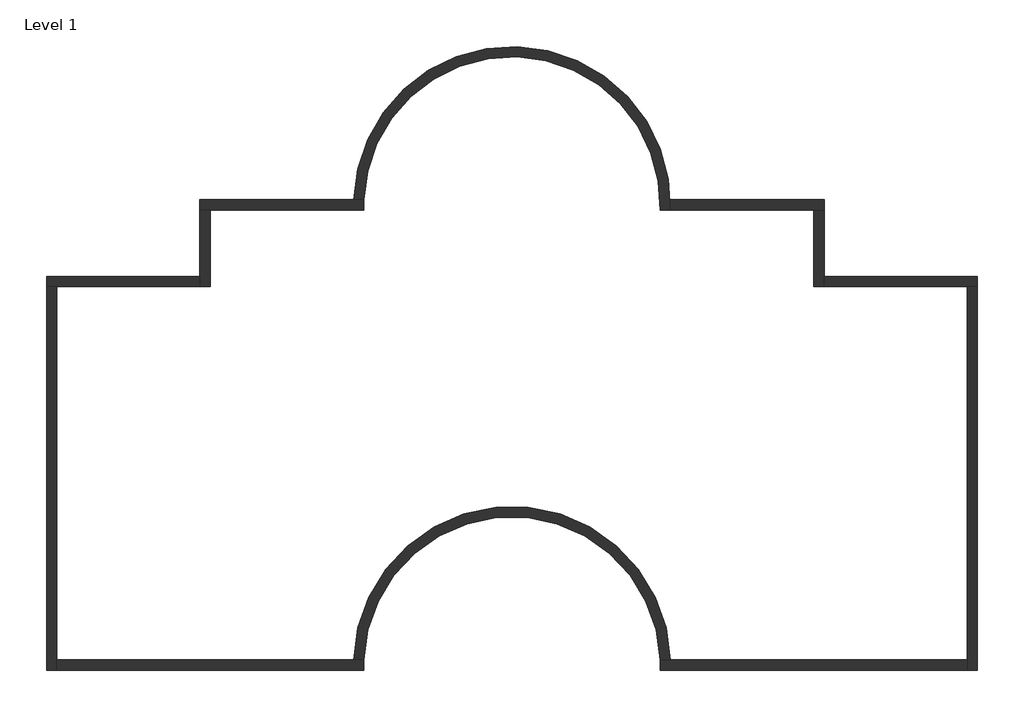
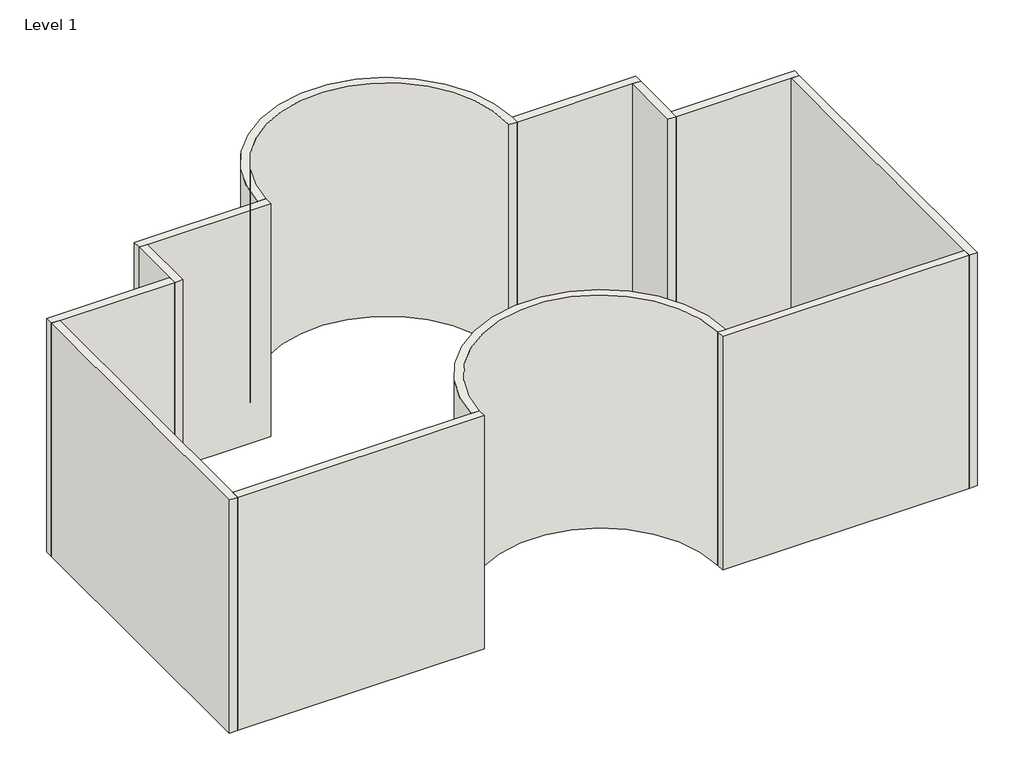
# One storey: 12 walls.
"""IFC4 building model written with IfcOpenShell, lengths in millimetres."""

from ifc_helpers import new_model, si_unit, point, frame, frame_2d, origin, origin_with_axes, place, context, project, spatial, polyline, circle_curve, trimmed, segment, composite_curve, outline, extrude, faceted_brep, element, save
from ifc_brep_helpers import plane_surface, cylinder_surface, revolved_surface, advanced_brep

model = new_model("IFC4")

# Units and contexts
model_context = context("Model", 3, world=origin())
ifc_project = project(units=[si_unit("LENGTHUNIT", "METRE", prefix="MILLI")], contexts=[model_context])

# Site, building, storey
site = spatial("IfcSite", under=ifc_project)
building = spatial("IfcBuilding", under=site)
storey = spatial("IfcBuildingStorey", under=building, Name="Level 1", Elevation=0.0)

# Walls
placement = place(None, origin())
element("IfcWall", 1, ObjectType="Generic - 8\"", at=placement, inside=storey, context=model_context, shape_type="AdvancedBrep", body=[
    advanced_brep(
    [(-911.0569066, 6435.3281437, 0.0), (-1114.3700155, 6435.3281437, 0.0), (-4164.0091517, 6435.3281437, 0.0), (-4164.0091517, 6435.3281437, 6096.0), (-1114.3700155, 6435.3281437, 6096.0), (-911.0569066, 6435.3281437, 6096.0), (-911.0569066, 6232.1281437, 0.0), (-911.0569066, 6232.1281437, 6096.0), (-3960.8091517, 6232.1281437, 6096.0), (-4164.0091517, 6232.1281437, 6096.0), (-4164.0091517, 6232.1281437, 0.0), (-3960.8091517, 6232.1281437, 0.0)],
    [
        (0, 1),
        (1, 2),
        (2, 3),
        (3, 4),
        (4, 5),
        (5, 0),
        (6, 7),
        (7, 8),
        (8, 9),
        (9, 10),
        (10, 11),
        (11, 6),
        (0, 6, circle_curve(frame((2033.5908483, 6333.7281437, 0.0), z_axis=(0.0, 0.0, 1.0), x_axis=(1.0, 0.0, 0.0)), 2946.4)),
        (10, 2),
        (3, 9),
        (7, 5, circle_curve(frame((2033.5908483, 6333.7281437, 6096.0), z_axis=(0.0, 0.0, -1.0), x_axis=(1.0, 0.0, 0.0)), 2946.4)),
    ],
    [
        plane_surface(frame((-1014.4091517, 6435.3281437, 0.0), z_axis=(0.0, 1.0, 0.0), x_axis=(-1.0, 0.0, 0.0))),
        plane_surface(frame((-1014.4091517, 6232.1281437, 0.0), z_axis=(0.0, -1.0, 0.0), x_axis=(1.0, 0.0, 0.0))),
        plane_surface(frame((-1014.4091517, 6435.3281437, 0.0), z_axis=(0.0, 0.0, -1.0), x_axis=(0.0, -1.0, 0.0))),
        plane_surface(frame((-4062.4091517, 6435.3281437, 6096.0), z_axis=(0.0, 0.0, 1.0), x_axis=(0.0, -1.0, 0.0))),
        plane_surface(frame((-4164.0091517, 6333.7281437, 0.0), z_axis=(-1.0, 0.0, 0.0), x_axis=(0.0, -1.0, 0.0))),
        revolved_surface(polyline([(4979.9908483, 6333.7281437, 0.0), (4979.9908483, 6333.7281437, 6096.0)]), (2033.5908483, 6333.7281437, 0.0), (0.0, 0.0, -1.0)),
    ],
    [
        (0, [[1, 2, 3, 4, 5, 6]]),
        (1, [[7, 8, 9, 10, 11, 12]]),
        (2, [[-2, -1, 13, -12, -11, 14]]),
        (3, [[-5, -4, 15, -9, -8, 16]]),
        (4, [[-3, -14, -10, -15]]),
        (5, [[-6, -16, -7, -13]]),
    ],
),
])
element("IfcWall", 2, ObjectType="Generic - 8\"", at=placement, inside=storey, context=model_context, shape_type="Brep", body=[
    faceted_brep([(-4164.0091517, 6232.1281437, 0.0), (-4164.0091517, 4911.3281437, 0.0), (-4164.0091517, 4708.1281437, 0.0), (-4164.0091517, 4708.1281437, 6096.0), (-4164.0091517, 4911.3281437, 6096.0), (-4164.0091517, 6232.1281437, 6096.0), (-3960.8091517, 6232.1281437, 0.0), (-3960.8091517, 6232.1281437, 6096.0), (-3960.8091517, 4708.1281437, 6096.0), (-3960.8091517, 4708.1281437, 0.0)], [[[0, 1, 2, 3, 4, 5]], [[6, 7, 8, 9]], [[2, 1, 0, 6, 9]], [[5, 4, 3, 8, 7]], [[3, 2, 9, 8]], [[0, 5, 7, 6]]]),
])
element("IfcWall", 3, ObjectType="Generic - 8\"", at=placement, inside=storey, context=model_context, shape_type="Brep", body=[
    faceted_brep([(-4164.0091517, 4911.3281437, 0.0), (-7212.0091517, 4911.3281437, 0.0), (-7212.0091517, 4911.3281437, 6096.0), (-4164.0091517, 4911.3281437, 6096.0), (-4164.0091517, 4708.1281437, 0.0), (-4164.0091517, 4708.1281437, 6096.0), (-7008.8091517, 4708.1281437, 6096.0), (-7212.0091517, 4708.1281437, 6096.0), (-7212.0091517, 4708.1281437, 0.0), (-7008.8091517, 4708.1281437, 0.0)], [[[0, 1, 2, 3]], [[4, 5, 6, 7, 8, 9]], [[1, 0, 4, 9, 8]], [[3, 2, 7, 6, 5]], [[2, 1, 8, 7]], [[0, 3, 5, 4]]]),
])
element("IfcWall", 4, ObjectType="Generic - 8\"", at=placement, inside=storey, context=model_context, shape_type="Brep", body=[
    faceted_brep([(-7212.0091517, 4708.1281437, 0.0), (-7212.0091517, -2911.8718563, 0.0), (-7212.0091517, -2911.8718563, 6096.0), (-7212.0091517, 4708.1281437, 6096.0), (-7008.8091517, 4708.1281437, 0.0), (-7008.8091517, 4708.1281437, 6096.0), (-7008.8091517, -2708.6718563, 6096.0), (-7008.8091517, -2911.8718563, 6096.0), (-7008.8091517, -2911.8718563, 0.0), (-7008.8091517, -2708.6718563, 0.0)], [[[0, 1, 2, 3]], [[4, 5, 6, 7, 8, 9]], [[1, 0, 4, 9, 8]], [[3, 2, 7, 6, 5]], [[2, 1, 8, 7]], [[0, 3, 5, 4]]]),
])
element("IfcWall", 5, ObjectType="Generic - 8\"", at=placement, inside=storey, context=model_context, shape_type="AdvancedBrep", body=[
    advanced_brep(
    [(-7008.8091517, -2911.8718563, 0.0), (-911.0569066, -2911.8718563, 0.0), (-911.0569066, -2911.8718563, 6096.0), (-7008.8091517, -2911.8718563, 6096.0), (-7008.8091517, -2708.6718563, 0.0), (-7008.8091517, -2708.6718563, 6096.0), (-1114.3700155, -2708.6718563, 6096.0), (-911.0569066, -2708.6718563, 6096.0), (-911.0569066, -2708.6718563, 0.0), (-1114.3700155, -2708.6718563, 0.0)],
    [
        (0, 1),
        (1, 2),
        (2, 3),
        (3, 0),
        (4, 5),
        (5, 6),
        (6, 7),
        (7, 8),
        (8, 9),
        (9, 4),
        (0, 4),
        (8, 1, circle_curve(frame((2033.5908483, -2810.2718563, 0.0), z_axis=(0.0, 0.0, 1.0), x_axis=(1.0, 0.0, 0.0)), 2946.4)),
        (2, 7, circle_curve(frame((2033.5908483, -2810.2718563, 6096.0), z_axis=(0.0, 0.0, -1.0), x_axis=(1.0, 0.0, 0.0)), 2946.4)),
        (5, 3),
    ],
    [
        plane_surface(frame((-7110.4091517, -2911.8718563, 0.0), z_axis=(0.0, -1.0, 0.0), x_axis=(1.0, 0.0, 0.0))),
        plane_surface(frame((-7110.4091517, -2708.6718563, 0.0), z_axis=(0.0, 1.0, 0.0), x_axis=(-1.0, 0.0, 0.0))),
        plane_surface(frame((-7110.4091517, -2911.8718563, 0.0), z_axis=(0.0, 0.0, -1.0), x_axis=(0.0, 1.0, 0.0))),
        plane_surface(frame((-1014.4091517, -2911.8718563, 6096.0), z_axis=(0.0, 0.0, 1.0), x_axis=(0.0, 1.0, 0.0))),
        revolved_surface(polyline([(4979.9908483, -2810.2718563, 0.0), (4979.9908483, -2810.2718563, 6096.0)]), (2033.5908483, -2810.2718563, 0.0), (0.0, 0.0, -1.0)),
        plane_surface(frame((-7008.8091517, 4809.7281437, 0.0), z_axis=(-1.0, 0.0, 0.0), x_axis=(0.0, 1.0, 0.0))),
    ],
    [
        (0, [[1, 2, 3, 4]]),
        (1, [[5, 6, 7, 8, 9, 10]]),
        (2, [[-1, 11, -10, -9, 12]]),
        (3, [[-3, 13, -7, -6, 14]]),
        (4, [[-2, -12, -8, -13]]),
        (5, [[-4, -14, -5, -11]]),
    ],
),
])
element("IfcWall", 6, ObjectType="Generic - 8\"", at=placement, inside=storey, context=model_context, shape_type="AdvancedBrep", body=[
    advanced_brep(
    [(5181.5517121, 6232.1281437, 6096.0), (5181.5517121, 6435.3281437, 6096.0), (-1114.3700155, 6435.3281437, 6096.0), (-911.0569066, 6435.3281437, 6096.0), (4978.2386031, 6232.1281437, 6096.0), (5181.5517121, 6232.1281437, 0.0), (4978.2386031, 6232.1281437, 0.0), (-911.0569066, 6435.3281437, 0.0), (-1114.3700155, 6435.3281437, 0.0), (5181.5517121, 6435.3281437, 0.0)],
    [
        (0, 1, circle_curve(frame((2033.5908483, 6333.7281437, 6096.0), z_axis=(0.0, 0.0, 1.0), x_axis=(1.0, 0.0, 0.0)), 3149.6)),
        (1, 2, circle_curve(frame((2033.5908483, 6333.7281437, 6096.0), z_axis=(0.0, 0.0, 1.0), x_axis=(1.0, 0.0, 0.0)), 3149.6)),
        (2, 3),
        (3, 4, circle_curve(frame((2033.5908483, 6333.7281437, 6096.0), z_axis=(0.0, 0.0, -1.0), x_axis=(1.0, 0.0, 0.0)), 2946.4)),
        (4, 0),
        (5, 6),
        (6, 7, circle_curve(frame((2033.5908483, 6333.7281437, 0.0), z_axis=(0.0, 0.0, 1.0), x_axis=(1.0, 0.0, 0.0)), 2946.4)),
        (7, 8),
        (8, 9, circle_curve(frame((2033.5908483, 6333.7281437, 0.0), z_axis=(0.0, 0.0, -1.0), x_axis=(1.0, 0.0, 0.0)), 3149.6)),
        (9, 5, circle_curve(frame((2033.5908483, 6333.7281437, 0.0), z_axis=(0.0, 0.0, -1.0), x_axis=(1.0, 0.0, 0.0)), 3149.6)),
        (0, 5),
        (8, 2),
        (3, 7),
        (6, 4),
    ],
    [
        plane_surface(frame((5183.1908483, 6333.7281437, 6096.0), z_axis=(0.0, 0.0, 1.0), x_axis=(0.0, 1.0, 0.0))),
        plane_surface(frame((5183.1908483, 6333.7281437, 0.0), z_axis=(0.0, 0.0, -1.0), x_axis=(0.0, -1.0, 0.0))),
        cylinder_surface(frame((2033.5908483, 6333.7281437, 0.0), z_axis=(0.0, 0.0, 1.0), x_axis=(1.0, 0.0, 0.0)), 3149.6),
        revolved_surface(polyline([(4979.9908483, 6333.7281437, 0.0), (4979.9908483, 6333.7281437, 6096.0)]), (2033.5908483, 6333.7281437, 0.0), (0.0, 0.0, -1.0)),
        plane_surface(frame((5081.5908483, 6232.1281437, 0.0), z_axis=(0.0, -1.0, 0.0), x_axis=(1.0, 0.0, 0.0))),
        plane_surface(frame((-1014.4091517, 6435.3281437, 0.0), z_axis=(0.0, -1.0, 0.0), x_axis=(-1.0, 0.0, 0.0))),
    ],
    [
        (0, [[1, 2, 3, 4, 5]]),
        (1, [[6, 7, 8, 9, 10]]),
        (2, [[-2, -1, 11, -10, -9, 12]]),
        (3, [[-4, 13, -7, 14]]),
        (4, [[-5, -14, -6, -11]]),
        (5, [[-3, -12, -8, -13]]),
    ],
),
])
element("IfcWall", 7, ObjectType="Generic - 8\"", at=placement, inside=storey, context=model_context, shape_type="AdvancedBrep", body=[
    advanced_brep(
    [(5181.5517121, 6232.1281437, 0.0), (8027.9908483, 6232.1281437, 0.0), (8231.1908483, 6232.1281437, 0.0), (8231.1908483, 6232.1281437, 6096.0), (8027.9908483, 6232.1281437, 6096.0), (5181.5517121, 6232.1281437, 6096.0), (5181.5517121, 6435.3281437, 0.0), (5181.5517121, 6435.3281437, 6096.0), (8231.1908483, 6435.3281437, 6096.0), (8231.1908483, 6435.3281437, 0.0)],
    [
        (0, 1),
        (1, 2),
        (2, 3),
        (3, 4),
        (4, 5),
        (5, 0),
        (6, 7),
        (7, 8),
        (8, 9),
        (9, 6),
        (0, 6, circle_curve(frame((2033.5908483, 6333.7281437, 0.0), z_axis=(0.0, 0.0, 1.0), x_axis=(1.0, 0.0, 0.0)), 3149.6)),
        (9, 2),
        (3, 8),
        (7, 5, circle_curve(frame((2033.5908483, 6333.7281437, 6096.0), z_axis=(0.0, 0.0, -1.0), x_axis=(1.0, 0.0, 0.0)), 3149.6)),
    ],
    [
        plane_surface(frame((5081.5908483, 6232.1281437, 0.0), z_axis=(0.0, -1.0, 0.0), x_axis=(1.0, 0.0, 0.0))),
        plane_surface(frame((5081.5908483, 6435.3281437, 0.0), z_axis=(0.0, 1.0, 0.0), x_axis=(-1.0, 0.0, 0.0))),
        plane_surface(frame((5081.5908483, 6232.1281437, 0.0), z_axis=(0.0, 0.0, -1.0), x_axis=(0.0, 1.0, 0.0))),
        plane_surface(frame((8129.5908483, 6232.1281437, 6096.0), z_axis=(0.0, 0.0, 1.0), x_axis=(0.0, 1.0, 0.0))),
        plane_surface(frame((8231.1908483, 6333.7281437, 0.0), z_axis=(1.0, 0.0, 0.0), x_axis=(0.0, 1.0, 0.0))),
        revolved_surface(polyline([(5183.1908483, 6333.7281437, 6096.0), (5183.1908483, 6333.7281437, 0.0)]), (2033.5908483, 6333.7281437, 0.0), (0.0, 0.0, 1.0)),
    ],
    [
        (0, [[1, 2, 3, 4, 5, 6]]),
        (1, [[7, 8, 9, 10]]),
        (2, [[-2, -1, 11, -10, 12]]),
        (3, [[-5, -4, 13, -8, 14]]),
        (4, [[-3, -12, -9, -13]]),
        (5, [[-6, -14, -7, -11]]),
    ],
),
])
element("IfcWall", 8, ObjectType="Generic - 8\"", at=placement, inside=storey, context=model_context, shape_type="Brep", body=[
    faceted_brep([(8027.9908483, 6232.1281437, 0.0), (8027.9908483, 4708.1281437, 0.0), (8027.9908483, 4708.1281437, 6096.0), (8027.9908483, 6232.1281437, 6096.0), (8231.1908483, 6232.1281437, 0.0), (8231.1908483, 6232.1281437, 6096.0), (8231.1908483, 4911.3281437, 6096.0), (8231.1908483, 4708.1281437, 6096.0), (8231.1908483, 4708.1281437, 0.0), (8231.1908483, 4911.3281437, 0.0)], [[[0, 1, 2, 3]], [[4, 5, 6, 7, 8, 9]], [[1, 0, 4, 9, 8]], [[3, 2, 7, 6, 5]], [[2, 1, 8, 7]], [[0, 3, 5, 4]]]),
])
element("IfcWall", 9, ObjectType="Generic - 8\"", at=placement, inside=storey, context=model_context, shape_type="Brep", body=[
    faceted_brep([(8231.1908483, 4708.1281437, 0.0), (11075.9908483, 4708.1281437, 0.0), (11279.1908483, 4708.1281437, 0.0), (11279.1908483, 4708.1281437, 6096.0), (11075.9908483, 4708.1281437, 6096.0), (8231.1908483, 4708.1281437, 6096.0), (8231.1908483, 4911.3281437, 0.0), (8231.1908483, 4911.3281437, 6096.0), (11279.1908483, 4911.3281437, 6096.0), (11279.1908483, 4911.3281437, 0.0)], [[[0, 1, 2, 3, 4, 5]], [[6, 7, 8, 9]], [[2, 1, 0, 6, 9]], [[5, 4, 3, 8, 7]], [[3, 2, 9, 8]], [[0, 5, 7, 6]]]),
])
element("IfcWall", 10, ObjectType="Generic - 8\"", at=placement, inside=storey, context=model_context, shape_type="Brep", body=[
    faceted_brep([(11075.9908483, 4708.1281437, 0.0), (11075.9908483, -2708.6718563, 0.0), (11075.9908483, -2911.8718563, 0.0), (11075.9908483, -2911.8718563, 6096.0), (11075.9908483, -2708.6718563, 6096.0), (11075.9908483, 4708.1281437, 6096.0), (11279.1908483, 4708.1281437, 0.0), (11279.1908483, 4708.1281437, 6096.0), (11279.1908483, -2911.8718563, 6096.0), (11279.1908483, -2911.8718563, 0.0)], [[[0, 1, 2, 3, 4, 5]], [[6, 7, 8, 9]], [[2, 1, 0, 6, 9]], [[5, 4, 3, 8, 7]], [[3, 2, 9, 8]], [[0, 5, 7, 6]]]),
])
element("IfcWall", 11, ObjectType="Generic - 8\"", at=placement, inside=storey, context=model_context, shape_type="AdvancedBrep", body=[
    advanced_brep(
    [(11075.9908483, -2708.6718563, 0.0), (5181.5517121, -2708.6718563, 0.0), (4978.2386031, -2708.6718563, 0.0), (4978.2386031, -2708.6718563, 6096.0), (5181.5517121, -2708.6718563, 6096.0), (11075.9908483, -2708.6718563, 6096.0), (11075.9908483, -2911.8718563, 0.0), (11075.9908483, -2911.8718563, 6096.0), (4978.2386031, -2911.8718563, 6096.0), (4978.2386031, -2911.8718563, 0.0)],
    [
        (0, 1),
        (1, 2),
        (2, 3),
        (3, 4),
        (4, 5),
        (5, 0),
        (6, 7),
        (7, 8),
        (8, 9),
        (9, 6),
        (0, 6),
        (9, 2, circle_curve(frame((2033.5908483, -2810.2718563, 0.0), z_axis=(0.0, 0.0, 1.0), x_axis=(1.0, 0.0, 0.0)), 2946.4)),
        (3, 8, circle_curve(frame((2033.5908483, -2810.2718563, 6096.0), z_axis=(0.0, 0.0, -1.0), x_axis=(1.0, 0.0, 0.0)), 2946.4)),
        (7, 5),
    ],
    [
        plane_surface(frame((11177.5908483, -2708.6718563, 0.0), z_axis=(0.0, 1.0, 0.0), x_axis=(-1.0, 0.0, 0.0))),
        plane_surface(frame((11177.5908483, -2911.8718563, 0.0), z_axis=(0.0, -1.0, 0.0), x_axis=(1.0, 0.0, 0.0))),
        plane_surface(frame((11177.5908483, -2708.6718563, 0.0), z_axis=(0.0, 0.0, -1.0), x_axis=(0.0, -1.0, 0.0))),
        plane_surface(frame((5081.5908483, -2708.6718563, 6096.0), z_axis=(0.0, 0.0, 1.0), x_axis=(0.0, -1.0, 0.0))),
        revolved_surface(polyline([(4979.9908483, -2810.2718563, 0.0), (4979.9908483, -2810.2718563, 6096.0)]), (2033.5908483, -2810.2718563, 0.0), (0.0, 0.0, -1.0)),
        plane_surface(frame((11075.9908483, 4809.7281437, 0.0), z_axis=(1.0, 0.0, 0.0), x_axis=(0.0, -1.0, 0.0))),
    ],
    [
        (0, [[1, 2, 3, 4, 5, 6]]),
        (1, [[7, 8, 9, 10]]),
        (2, [[-2, -1, 11, -10, 12]]),
        (3, [[-5, -4, 13, -8, 14]]),
        (4, [[-3, -12, -9, -13]]),
        (5, [[-6, -14, -7, -11]]),
    ],
),
])
element("IfcWall", 12, ObjectType="Generic - 8\"", at=placement, inside=storey, context=model_context, shape_type="SweptSolid", body=[
    extrude(outline(composite_curve([segment(polyline([(5181.5517121, -2708.6718563), (4978.2386031, -2708.6718563)]), True, "CONTINUOUS"), segment(trimmed(circle_curve(frame_2d((2033.5908483, -2810.2718563)), 2946.4), [point((4978.2386031, -2708.6718563))], [point((-911.0569066, -2708.6718563))], True, "CARTESIAN"), True, "CONTINUOUS"), segment(polyline([(-911.0569066, -2708.6718563), (-1114.3700155, -2708.6718563)]), True, "CONTINUOUS"), segment(trimmed(circle_curve(frame_2d((2033.5908483, -2810.2718563)), 3149.6), [point((-1114.3700155, -2708.6718563))], [point((5181.5517121, -2708.6718563))], False, "CARTESIAN"), True, "CONTINUOUS")], self_intersect=False)), origin_with_axes(), (0.0, 0.0, 1.0), 6096.0),
])

save(model, "model.ifc")
